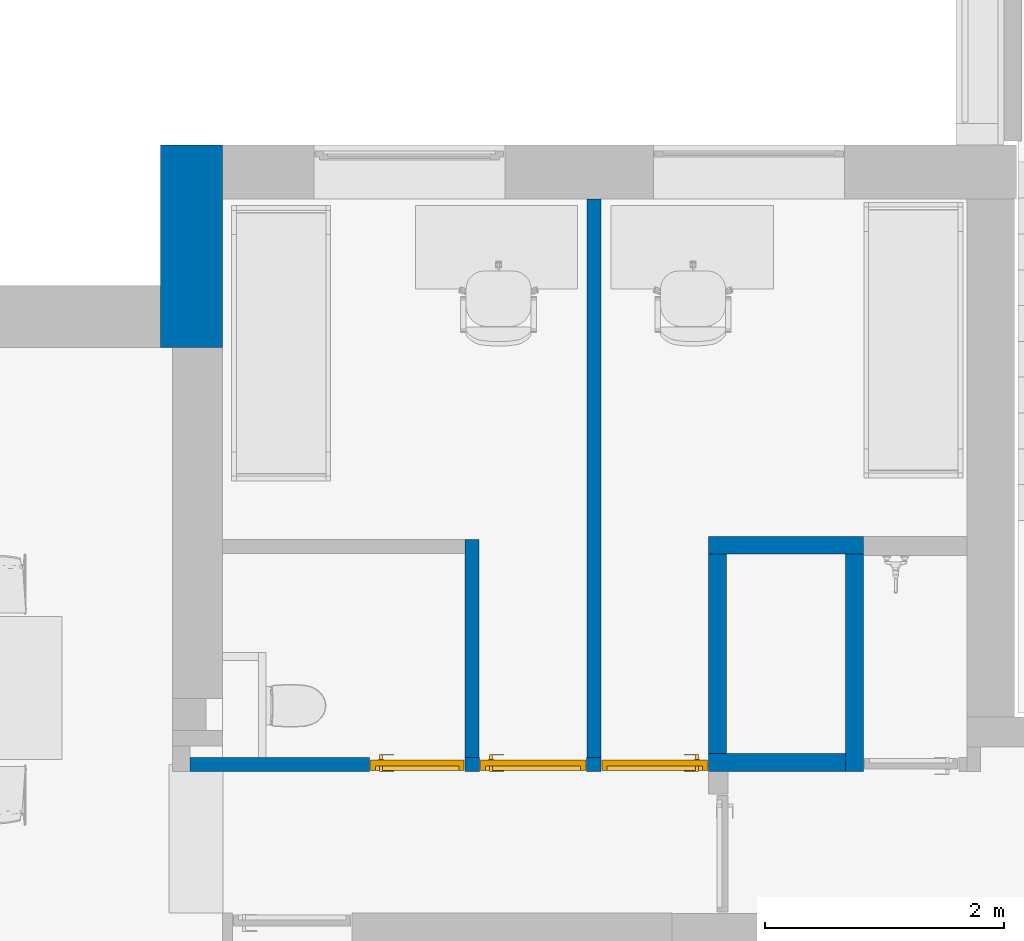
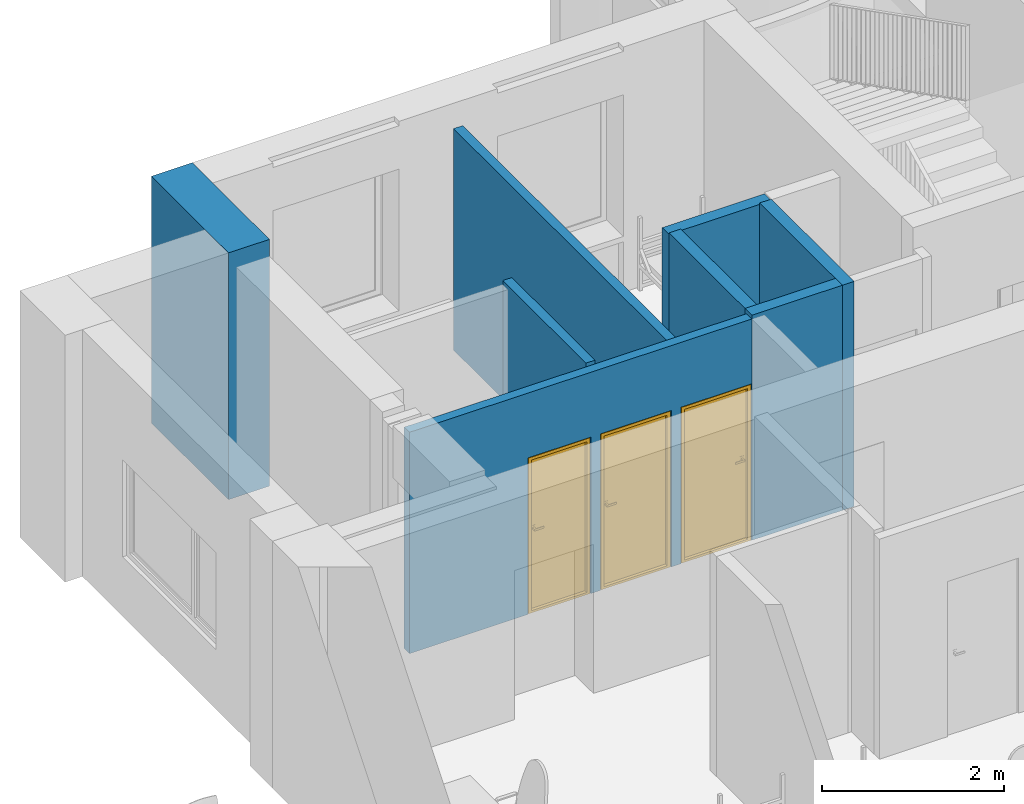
# One storey, part 5 of 48: 8 walls, 3 doors, 6 openings.
"""IFC2X3 building model written with IfcOpenShell, lengths in millimetres."""

from ifc_helpers import new_model, entity, si_unit, converted_unit, derived_unit, direction, frame, frame_2d, origin, place, context, subcontext, project, spatial, rectangle, extrude, faceted_brep, source, transform, mapped, material, material_list, layer, layer_set, layer_usage, type_object, type_shapes, element, fill, save


model = new_model("IFC2X3")

# Units and contexts
model_context = context("Model", 3, precision=0.01, world=origin(), true_north=direction((6.12303176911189e-17, 1.0)))
body_context = subcontext(model_context, "Body", "Model", "MODEL_VIEW")
ifc_project = project(units=[si_unit("LENGTHUNIT", "METRE", prefix="MILLI"), si_unit("AREAUNIT", "SQUARE_METRE"), si_unit("VOLUMEUNIT", "CUBIC_METRE"), converted_unit("PLANEANGLEUNIT", "DEGREE", entity("IfcRatioMeasure", 0.0174532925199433), si_unit("PLANEANGLEUNIT", "RADIAN"), dimensions=[0, 0, 0, 0, 0, 0, 0]), si_unit("MASSUNIT", "GRAM", prefix="KILO"), derived_unit("MASSDENSITYUNIT", [(si_unit("MASSUNIT", "GRAM", prefix="KILO"), 1), (si_unit("LENGTHUNIT", "METRE"), -3)]), si_unit("TIMEUNIT", "SECOND"), si_unit("FREQUENCYUNIT", "HERTZ"), si_unit("THERMODYNAMICTEMPERATUREUNIT", "DEGREE_CELSIUS"), derived_unit("THERMALTRANSMITTANCEUNIT", [(si_unit("MASSUNIT", "GRAM", prefix="KILO"), 1), (si_unit("THERMODYNAMICTEMPERATUREUNIT", "KELVIN"), -1), (si_unit("TIMEUNIT", "SECOND"), -3)]), derived_unit("VOLUMETRICFLOWRATEUNIT", [(si_unit("LENGTHUNIT", "METRE"), 3), (si_unit("TIMEUNIT", "SECOND"), -1)]), si_unit("ELECTRICCURRENTUNIT", "AMPERE"), si_unit("ELECTRICVOLTAGEUNIT", "VOLT"), si_unit("POWERUNIT", "WATT"), si_unit("FORCEUNIT", "NEWTON", prefix="KILO"), si_unit("ILLUMINANCEUNIT", "LUX"), si_unit("LUMINOUSFLUXUNIT", "LUMEN"), si_unit("LUMINOUSINTENSITYUNIT", "CANDELA"), derived_unit("USERDEFINED", [(si_unit("MASSUNIT", "GRAM", prefix="KILO"), -1), (si_unit("LENGTHUNIT", "METRE"), -2), (si_unit("TIMEUNIT", "SECOND"), 3), (si_unit("LUMINOUSFLUXUNIT", "LUMEN"), 1)]), derived_unit("LINEARVELOCITYUNIT", [(si_unit("LENGTHUNIT", "METRE"), 1), (si_unit("TIMEUNIT", "SECOND"), -1)]), si_unit("PRESSUREUNIT", "PASCAL"), derived_unit("USERDEFINED", [(si_unit("LENGTHUNIT", "METRE"), -2), (si_unit("MASSUNIT", "GRAM", prefix="KILO"), 1), (si_unit("TIMEUNIT", "SECOND"), -2)]), derived_unit("LINEARFORCEUNIT", [(si_unit("MASSUNIT", "GRAM", prefix="KILO"), 1), (si_unit("LENGTHUNIT", "METRE"), 1), (si_unit("TIMEUNIT", "SECOND"), -2), (si_unit("LENGTHUNIT", "METRE"), -1)]), derived_unit("PLANARFORCEUNIT", [(si_unit("MASSUNIT", "GRAM", prefix="KILO"), 1), (si_unit("LENGTHUNIT", "METRE"), 1), (si_unit("TIMEUNIT", "SECOND"), -2), (si_unit("LENGTHUNIT", "METRE"), -2)])], contexts=[model_context])

# Site, building, storey
site_placement = place(None, origin())
site = spatial("IfcSite", under=ifc_project, at=site_placement, Name="Default", CompositionType="ELEMENT")
building_placement = place(site_placement, origin())
building = spatial("IfcBuilding", under=site, at=building_placement, Name="SMA ARH", CompositionType="ELEMENT")
storey_placement = place(building_placement, frame((0.0, 0.0, 6600.0)))
storey = spatial("IfcBuildingStorey", under=building, at=storey_placement, Name="3 Korrus", CompositionType="ELEMENT", Elevation=6599.99999999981)

# Walls
ifc_material_1 = material(Name="_ol.olev sein")
ifc_layer_1 = layer(ifc_material_1, 520.0)
ifc_layer_set_1 = layer_set([ifc_layer_1], Name="Basic Wall:Generic - 520mm")
ifc_layer_usage_1 = layer_usage(ifc_layer_set_1, "AXIS2", "NEGATIVE", 260.0)
wall_type_1 = type_object("IfcWallType", Name="Basic Wall:Generic - 520mm", PredefinedType="STANDARD", material=ifc_layer_set_1)
wall_1_placement = place(storey_placement, frame((1905.0, 11250.0, 0.0), z_axis=(0.0, 0.0, 1.0), x_axis=(0.0, 1.0, 0.0)))
element("IfcWallStandardCase", 1, at=wall_1_placement, inside=storey, type_object=wall_type_1, material=ifc_layer_usage_1, Name="Basic Wall:Generic - 520mm", ObjectType="Basic Wall:Generic - 520mm", context=body_context, shape_type="SweptSolid", body=[
    extrude(rectangle(XDim=1696.2030428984, YDim=520.0, at=frame_2d((848.101521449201, -8.5265128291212e-14), x_axis=(-1.0, 0.0))), origin(), (0.0, 0.0, 1.0), 3309.99999999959),
])
ifc_material_2 = material(Name="EST. Müüritis. Väikeplokk. Kergkruusplokk")
ifc_layer_2 = layer(ifc_material_2, 150.0)
ifc_layer_set_2 = layer_set([ifc_layer_2], Name="Basic Wall:SS-02_ 150mm šahtide vahesein")
ifc_layer_usage_2 = layer_usage(ifc_layer_set_2, "AXIS2", "POSITIVE", -75.0)
wall_type_2 = type_object("IfcWallType", Name="Basic Wall:SS-02_ 150mm šahtide vahesein", PredefinedType="STANDARD", material=ifc_layer_set_2)
wall_2_placement = place(storey_placement, frame((6235.32130046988, 9595.0, 0.0)))
element("IfcWallStandardCase", 2, at=wall_2_placement, inside=storey, type_object=wall_type_2, material=ifc_layer_usage_2, Name="Basic Wall:SS-02_ 150mm šahtide vahesein", ObjectType="Basic Wall:SS-02_ 150mm šahtide vahesein", context=body_context, shape_type="SweptSolid", body=[
    extrude(rectangle(XDim=1298.40364972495, YDim=150.000000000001, at=frame_2d((649.201824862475, -4.9737991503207e-14), x_axis=(-1.0, 0.0))), origin(), (0.0, 0.0, 1.0), 2999.9999999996),
])

# Wall, opening
ifc_layer_usage_3 = layer_usage(ifc_layer_set_2, "AXIS2", "POSITIVE", -75.0)
wall_3_placement = place(storey_placement, frame((7458.72495019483, 9520.0, 0.0), z_axis=(0.0, 0.0, 1.0), x_axis=(0.0, -1.0, 0.0)))
wall_3 = element("IfcWallStandardCase", 3, at=wall_3_placement, inside=storey, type_object=wall_type_2, material=ifc_layer_usage_3, Name="Basic Wall:SS-02_ 150mm šahtide vahesein", ObjectType="Basic Wall:SS-02_ 150mm šahtide vahesein", context=body_context, shape_type="SweptSolid", body=[
    extrude(rectangle(XDim=1819.99999999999, YDim=150.000000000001, at=frame_2d((909.999999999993, 1.13686837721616e-13), x_axis=(-1.0, 0.0))), origin(), (0.0, 0.0, 1.0), 3019.99999999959),
])
opening_1_placement = place(wall_3_placement, origin())
element("IfcOpeningElement", 4, at=opening_1_placement, cuts=wall_3, Name="Basic Wall:SS-02_ 150mm šahtide vahesein", ObjectType="Opening", context=body_context, shape_type="SweptSolid", body=[
    extrude(rectangle(XDim=2099.99999999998, YDim=116.0, at=frame_2d((0.0, 5.6843418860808e-13), x_axis=(0.0, 1.0))), frame((1762.0, 75.0, 1050.0), z_axis=(0.0, 1.0, 0.0), x_axis=(1.0, 0.0, 0.0)), (0.0, 0.0, 1.0), 800.0),
])

ifc_layer_usage_4 = layer_usage(ifc_layer_set_2, "AXIS2", "POSITIVE", -75.0)
wall_4_placement = place(storey_placement, frame((7383.72495019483, 7775.0, 0.0), z_axis=(0.0, 0.0, 1.0), x_axis=(-1.0, 0.0, 0.0)))
wall_4 = element("IfcWallStandardCase", 5, at=wall_4_placement, inside=storey, type_object=wall_type_2, material=ifc_layer_usage_4, Name="Basic Wall:SS-02_ 150mm šahtide vahesein", ObjectType="Basic Wall:SS-02_ 150mm šahtide vahesein", context=body_context, shape_type="SweptSolid", body=[
    extrude(rectangle(XDim=1148.40364972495, YDim=150.000000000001, at=frame_2d((574.201824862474, 2.41584530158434e-13), x_axis=(-1.0, 0.0))), origin(), (0.0, 0.0, 1.0), 3019.99999999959),
])
opening_2_placement = place(wall_4_placement, origin())
element("IfcOpeningElement", 6, at=opening_2_placement, cuts=wall_4, Name="Basic Wall:SS-02_ 150mm šahtide vahesein", ObjectType="Opening", context=body_context, shape_type="SweptSolid", body=[
    extrude(rectangle(XDim=2099.99999999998, YDim=900.0, at=frame_2d((5.40012479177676e-13, -5.6843418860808e-13), x_axis=(0.0, 1.0))), frame((1598.40364972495, -1449.0, 1050.0), z_axis=(0.0, 1.0, 0.0), x_axis=(-1.0, 0.0, 0.0)), (0.0, 0.0, 1.0), 3048.0),
])

ifc_layer_usage_5 = layer_usage(ifc_layer_set_2, "AXIS2", "POSITIVE", -75.0)
wall_5_placement = place(storey_placement, frame((6310.32130046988, 7850.0, 0.0), z_axis=(0.0, 0.0, 1.0), x_axis=(0.0, 1.0, 0.0)))
wall_5 = element("IfcWallStandardCase", 7, at=wall_5_placement, inside=storey, type_object=wall_type_2, material=ifc_layer_usage_5, Name="Basic Wall:SS-02_ 150mm šahtide vahesein", ObjectType="Basic Wall:SS-02_ 150mm šahtide vahesein", context=body_context, shape_type="SweptSolid", body=[
    extrude(rectangle(XDim=1669.99999999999, YDim=150.000000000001, at=frame_2d((834.999999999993, 0.0), x_axis=(-1.0, 0.0))), origin(), (0.0, 0.0, 1.0), 3019.99999999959),
])
opening_3_placement = place(wall_5_placement, origin())
element("IfcOpeningElement", 8, at=opening_3_placement, cuts=wall_5, Name="Basic Wall:SS-02_ 150mm šahtide vahesein", ObjectType="Opening", context=body_context, shape_type="SweptSolid", body=[
    extrude(rectangle(XDim=2099.99999999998, YDim=116.0, at=frame_2d((0.0, -5.6843418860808e-13), x_axis=(0.0, 1.0))), frame((-92.0, 75.0, 1050.0), z_axis=(0.0, 1.0, 0.0), x_axis=(-1.0, 0.0, 0.0)), (0.0, 0.0, 1.0), 900.0),
])

# Wall, openings, doors
ifc_material_3 = material(Name="EST. Ehitusplaat. Kipsplaat")
ifc_layer_3 = layer(ifc_material_3, 12.5)
ifc_layer_4 = layer(ifc_material_3, 12.5)
ifc_material_4 = material(Name="EST. Soojustus. Mineraalvill. Default")
ifc_layer_5 = layer(ifc_material_4, 66.0)
ifc_layer_6 = layer(ifc_material_3, 12.5)
ifc_layer_7 = layer(ifc_material_3, 12.5)
ifc_layer_set_3 = layer_set([ifc_layer_3, ifc_layer_4, ifc_layer_5, ifc_layer_6, ifc_layer_7], Name="Basic Wall:SS-05_Kips, 66mm metallkarkass")
ifc_layer_usage_6 = layer_usage(ifc_layer_set_3, "AXIS2", "NEGATIVE", 58.0)
wall_type_3 = type_object("IfcWallType", Name="Basic Wall:SS-05_Kips, 66mm metallkarkass", PredefinedType="STANDARD", material=ifc_layer_set_3)
wall_6_placement = place(storey_placement, frame((6235.32130046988, 7758.0, 0.0), z_axis=(0.0, 0.0, 1.0), x_axis=(-1.0, 0.0, 0.0)))
wall_6 = element("IfcWallStandardCase", 9, at=wall_6_placement, inside=storey, type_object=wall_type_3, material=ifc_layer_usage_6, Name="Basic Wall:SS-05_Kips, 66mm metallkarkass", ObjectType="Basic Wall:SS-05_Kips, 66mm metallkarkass", context=body_context, shape_type="SweptSolid", body=[
    extrude(rectangle(XDim=4344.5372331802, YDim=116.0, at=frame_2d((2172.2686165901, 3.12638803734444e-13), x_axis=(-1.0, 0.0))), origin(), (0.0, 0.0, 1.0), 2970.00000000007),
])
opening_4_placement = place(wall_6_placement, frame((900.0, 58.0, 0.0)))
opening_4 = element("IfcOpeningElement", 10, at=opening_4_placement, cuts=wall_6, Name="SMA_D01, 1-poolne:SU-P-05 - 900x2100 TUBA:1", ObjectType="Opening", context=body_context, shape_type="SweptSolid", body=[
    extrude(rectangle(XDim=2099.99999999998, YDim=900.0, at=frame_2d((1049.99999999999, 450.0), x_axis=(1.0, 0.0))), frame((0.0, 0.0, 0.0), z_axis=(0.0, -1.0, 0.0), x_axis=(0.0, 0.0, 1.0)), (0.0, 0.0, 1.0), 116.0),
])
opening_5_placement = place(wall_6_placement, frame((1920.0, 58.0, 0.0)))
opening_5 = element("IfcOpeningElement", 11, at=opening_5_placement, cuts=wall_6, Name="SMA_D01, 1-poolne:SU-P-05 - 900x2100 TUBA:1", ObjectType="Opening", context=body_context, shape_type="SweptSolid", body=[
    extrude(rectangle(XDim=2099.99999999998, YDim=900.0, at=frame_2d((1049.99999999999, 450.0), x_axis=(1.0, 0.0))), frame((0.0, 0.0, 0.0), z_axis=(0.0, -1.0, 0.0), x_axis=(0.0, 0.0, 1.0)), (0.0, 0.0, 1.0), 116.0),
])
opening_6_placement = place(wall_6_placement, frame((2840.0, 58.0, 0.0)))
opening_6 = element("IfcOpeningElement", 12, at=opening_6_placement, cuts=wall_6, Name="SMA_D01, 1-poolne:SU-P-06 - 800x2100 DUŠŠ:1", ObjectType="Opening", context=body_context, shape_type="SweptSolid", body=[
    extrude(rectangle(XDim=2099.99999999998, YDim=800.0, at=frame_2d((1049.99999999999, 400.0), x_axis=(1.0, 0.0))), frame((0.0, 0.0, 0.0), z_axis=(0.0, -1.0, 0.0), x_axis=(0.0, 0.0, 1.0)), (0.0, 0.0, 1.0), 116.0),
])
ifc_material_5 = material(Name="EST. Metall. Alumiinium. Värvitud. RAL7023 (Concrete grey)")
ifc_material_6 = material(Name="<Unnamed>")
ifc_material_7 = material(Name="EST. Klaas. 3x. Default")
ifc_material_list_1 = material_list([ifc_material_5, ifc_material_6, ifc_material_5, ifc_material_6, ifc_material_6, ifc_material_7, ifc_material_5])
door_style_1 = type_object("IfcDoorStyle", Name="SMA_D01, 1-poolne:SU-P-05 - 900x2100 TUBA", ConstructionType="NOTDEFINED", OperationType="SINGLE_SWING_LEFT", ParameterTakesPrecedence=False, Sizeable=False, material=ifc_material_list_1)
shared_shape_1 = source(origin(), body_context, "Body", "Brep", [
    faceted_brep([(790.0, 6.0, 1112.5), (695.0, 6.0, 1112.5), (695.0, 1.0, 1112.5), (815.0, 1.0, 1112.5), (815.0, 44.0, 1112.5), (790.0, 44.0, 1112.5), (790.0, 6.0, 1087.5), (790.0, 44.0, 1087.5), (815.0, 44.0, 1087.5), (815.0, 1.0, 1087.5), (695.0, 1.0, 1087.5), (695.0, 6.0, 1087.5)], [[[0, 1, 2, 3, 4, 5]], [[6, 7, 8, 9, 10, 11]], [[5, 7, 6, 0]], [[4, 8, 7, 5]], [[3, 9, 8, 4]], [[2, 10, 9, 3]], [[1, 11, 10, 2]], [[0, 6, 11, 1]]]),
    faceted_brep([(777.500000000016, 44.0, 1137.5), (827.500000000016, 44.0, 1137.5), (827.500000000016, 46.0, 1137.5), (777.500000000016, 46.0, 1137.5), (777.500000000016, 44.0, 1017.5), (777.500000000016, 46.0, 1017.5), (827.500000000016, 46.0, 1017.5), (827.500000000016, 44.0, 1017.5)], [[[0, 1, 2, 3]], [[4, 5, 6, 7]], [[3, 5, 4, 0]], [[2, 6, 5, 3]], [[1, 7, 6, 2]], [[0, 4, 7, 1]]]),
    faceted_brep([(790.0, 136.0, 1112.5), (790.0, 98.0, 1112.5), (815.0, 98.0, 1112.5), (815.0, 141.0, 1112.5), (695.0, 141.0, 1112.5), (695.0, 136.0, 1112.5), (790.0, 136.0, 1087.5), (695.0, 136.0, 1087.5), (695.0, 141.0, 1087.5), (815.0, 141.0, 1087.5), (815.0, 98.0, 1087.5), (790.0, 98.0, 1087.5)], [[[0, 1, 2, 3, 4, 5]], [[6, 7, 8, 9, 10, 11]], [[1, 0, 6, 11]], [[2, 1, 11, 10]], [[3, 2, 10, 9]], [[4, 3, 9, 8]], [[5, 4, 8, 7]], [[0, 5, 7, 6]]]),
    faceted_brep([(777.500000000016, 98.0, 1137.5), (777.500000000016, 96.0, 1137.5), (827.500000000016, 96.0, 1137.5), (827.500000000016, 98.0, 1137.5), (777.500000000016, 98.0, 1017.5), (827.500000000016, 98.0, 1017.5), (827.500000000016, 96.0, 1017.5), (777.500000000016, 96.0, 1017.5)], [[[0, 1, 2, 3]], [[4, 5, 6, 7]], [[1, 0, 4, 7]], [[2, 1, 7, 6]], [[3, 2, 6, 5]], [[0, 3, 5, 4]]]),
    faceted_brep([(50.0, 6.0, 30.0), (50.0, 46.0, 30.0), (50.0, 46.0, 20.0), (50.0, 46.0, 0.0), (50.0, 6.0, 0.0), (850.0, 6.0, 30.0), (850.0, 6.0, 0.0), (850.0, 46.0, 0.0), (850.0, 46.0, 20.0), (850.0, 46.0, 30.0), (35.0, 46.0, 0.0), (35.0, 96.0, 0.0), (865.0, 96.0, 0.0), (865.0, 46.0, 0.0), (35.0, 96.0, 20.0), (35.0, 46.0, 20.0), (865.0, 96.0, 20.0), (865.0, 46.0, 20.0)], [[[0, 1, 2, 3, 4]], [[5, 6, 7, 8, 9]], [[4, 6, 5, 0]], [[3, 10, 11, 12, 13, 7, 6, 4]], [[9, 8, 2, 1]], [[0, 5, 9, 1]], [[14, 11, 10, 15]], [[16, 17, 13, 12]], [[15, 2, 8, 17, 16, 14]], [[10, 3, 2, 15]], [[14, 16, 12, 11]], [[17, 8, 7, 13]]]),
    faceted_brep([(10.0, 6.0, 0.0), (10.0, 96.0, 0.0), (35.0, 96.0, 0.0), (35.0, 46.0, 0.0), (50.0, 46.0, 0.0), (50.0, 6.0, 0.0), (50.0, 6.0, 2050.0), (850.0, 6.0, 2050.0), (850.0, 6.0, 0.0), (890.0, 6.0, 0.0), (890.0, 6.0, 2090.0), (10.0, 6.0, 2090.0), (50.0, 46.0, 2050.0), (35.0, 46.0, 2065.0), (865.0, 46.0, 2065.0), (865.0, 46.0, 0.0), (850.0, 46.0, 0.0), (850.0, 46.0, 2050.0), (35.0, 96.0, 2065.0), (10.0, 96.0, 2090.0), (890.0, 96.0, 2090.0), (890.0, 96.0, 0.0), (865.0, 96.0, 0.0), (865.0, 96.0, 2065.0)], [[[0, 1, 2, 3, 4, 5]], [[5, 6, 7, 8, 9, 10, 11, 0]], [[4, 12, 6, 5]], [[3, 13, 14, 15, 16, 17, 12, 4]], [[2, 18, 13, 3]], [[1, 19, 20, 21, 22, 23, 18, 2]], [[0, 11, 19, 1]], [[9, 21, 20, 10]], [[8, 16, 15, 22, 21, 9]], [[7, 17, 16, 8]], [[14, 23, 22, 15]], [[6, 12, 17, 7]], [[13, 18, 23, 14]], [[10, 20, 19, 11]]]),
    faceted_brep([(865.0, 46.0, 2065.0), (35.0, 46.0, 2065.0), (35.0, 46.0, 20.0), (865.0, 46.0, 20.0), (865.0, 96.0, 2065.0), (865.0, 96.0, 20.0), (35.0, 96.0, 20.0), (35.0, 96.0, 2065.0)], [[[0, 1, 2, 3]], [[4, 5, 6, 7]], [[3, 5, 4, 0]], [[2, 6, 5, 3]], [[1, 7, 6, 2]], [[0, 4, 7, 1]]]),
])
type_shapes(door_style_1, [shared_shape_1])
door_1_placement = place(opening_4_placement, frame((0.0, 0.0, 0.0), z_axis=(0.0, 0.0, 1.0), x_axis=(-1.0, 0.0, 0.0)))
door_1 = element("IfcDoor", 13, at=door_1_placement, inside=storey, type_object=door_style_1, material=ifc_material_5, Name="SMA_D01, 1-poolne:SU-P-05 - 900x2100 TUBA", ObjectType="SMA_D01, 1-poolne:SU-P-05 - 900x2100 TUBA", OverallHeight=2099.99999999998, OverallWidth=900.0, context=body_context, shape_type="MappedRepresentation", body=[
    mapped(shared_shape_1, transform((0.0, 0.0, 0.0), scale=1.0)),
])
fill(opening_4, door_1)
ifc_material_list_2 = material_list([ifc_material_6, ifc_material_7, ifc_material_6, ifc_material_5, ifc_material_5, ifc_material_5, ifc_material_6])
door_style_2 = type_object("IfcDoorStyle", Name="SMA_D01, 1-poolne:SU-P-05 - 900x2100 TUBA", ConstructionType="NOTDEFINED", OperationType="SINGLE_SWING_RIGHT", ParameterTakesPrecedence=False, Sizeable=False, material=ifc_material_list_2)
shared_shape_2 = source(origin(), body_context, "Body", "Brep", [
    faceted_brep([(110.0, 6.0, 1112.5), (110.0, 44.0, 1112.5), (85.0, 44.0, 1112.5), (85.0, 1.0, 1112.5), (205.0, 1.0, 1112.5), (205.0, 6.0, 1112.5), (110.0, 6.0, 1087.5), (205.0, 6.0, 1087.5), (205.0, 1.0, 1087.5), (85.0, 1.0, 1087.5), (85.0, 44.0, 1087.5), (110.0, 44.0, 1087.5)], [[[0, 1, 2, 3, 4, 5]], [[6, 7, 8, 9, 10, 11]], [[1, 0, 6, 11]], [[2, 1, 11, 10]], [[3, 2, 10, 9]], [[4, 3, 9, 8]], [[5, 4, 8, 7]], [[0, 5, 7, 6]]]),
    faceted_brep([(122.5, 44.0, 1137.5), (122.5, 46.0, 1137.5), (72.5000000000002, 46.0, 1137.5), (72.5000000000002, 44.0, 1137.5), (122.5, 44.0, 1017.5), (72.5000000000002, 44.0, 1017.5), (72.5000000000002, 46.0, 1017.5), (122.5, 46.0, 1017.5)], [[[0, 1, 2, 3]], [[4, 5, 6, 7]], [[1, 0, 4, 7]], [[2, 1, 7, 6]], [[3, 2, 6, 5]], [[0, 3, 5, 4]]]),
    faceted_brep([(110.0, 136.0, 1112.5), (205.0, 136.0, 1112.5), (205.0, 141.0, 1112.5), (85.0, 141.0, 1112.5), (85.0, 98.0, 1112.5), (110.0, 98.0, 1112.5), (110.0, 136.0, 1087.5), (110.0, 98.0, 1087.5), (85.0, 98.0, 1087.5), (85.0, 141.0, 1087.5), (205.0, 141.0, 1087.5), (205.0, 136.0, 1087.5)], [[[0, 1, 2, 3, 4, 5]], [[6, 7, 8, 9, 10, 11]], [[5, 7, 6, 0]], [[4, 8, 7, 5]], [[3, 9, 8, 4]], [[2, 10, 9, 3]], [[1, 11, 10, 2]], [[0, 6, 11, 1]]]),
    faceted_brep([(122.5, 98.0, 1137.5), (72.5000000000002, 98.0, 1137.5), (72.5000000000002, 96.0, 1137.5), (122.5, 96.0, 1137.5), (122.5, 98.0, 1017.5), (122.5, 96.0, 1017.5), (72.5000000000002, 96.0, 1017.5), (72.5000000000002, 98.0, 1017.5)], [[[0, 1, 2, 3]], [[4, 5, 6, 7]], [[3, 5, 4, 0]], [[2, 6, 5, 3]], [[1, 7, 6, 2]], [[0, 4, 7, 1]]]),
    faceted_brep([(850.0, 6.0, 30.0), (850.0, 6.0, 0.0), (850.0, 46.0, 0.0), (850.0, 46.0, 20.0), (850.0, 46.0, 30.0), (50.0, 6.0, 30.0), (50.0, 46.0, 30.0), (50.0, 46.0, 20.0), (50.0, 46.0, 0.0), (50.0, 6.0, 0.0), (35.0, 46.0, 0.0), (35.0, 96.0, 0.0), (865.0, 96.0, 0.0), (865.0, 46.0, 0.0), (865.0, 96.0, 20.0), (865.0, 46.0, 20.0), (35.0, 96.0, 20.0), (35.0, 46.0, 20.0)], [[[0, 1, 2, 3, 4]], [[5, 6, 7, 8, 9]], [[1, 0, 5, 9]], [[2, 1, 9, 8, 10, 11, 12, 13]], [[6, 4, 3, 7]], [[0, 4, 6, 5]], [[14, 15, 13, 12]], [[16, 11, 10, 17]], [[15, 14, 16, 17, 7, 3]], [[13, 15, 3, 2]], [[14, 12, 11, 16]], [[17, 10, 8, 7]]]),
    faceted_brep([(890.0, 6.0, 0.0), (850.0, 6.0, 0.0), (850.0, 46.0, 0.0), (865.0, 46.0, 0.0), (865.0, 96.0, 0.0), (890.0, 96.0, 0.0), (890.0, 6.0, 2090.0), (10.0, 6.0, 2090.0), (10.0, 6.0, 0.0), (50.0, 6.0, 0.0), (50.0, 6.0, 2050.0), (850.0, 6.0, 2050.0), (850.0, 46.0, 2050.0), (50.0, 46.0, 2050.0), (50.0, 46.0, 0.0), (35.0, 46.0, 0.0), (35.0, 46.0, 2065.0), (865.0, 46.0, 2065.0), (865.0, 96.0, 2065.0), (35.0, 96.0, 2065.0), (35.0, 96.0, 0.0), (10.0, 96.0, 0.0), (10.0, 96.0, 2090.0), (890.0, 96.0, 2090.0)], [[[0, 1, 2, 3, 4, 5]], [[1, 0, 6, 7, 8, 9, 10, 11]], [[2, 1, 11, 12]], [[3, 2, 12, 13, 14, 15, 16, 17]], [[4, 3, 17, 18]], [[5, 4, 18, 19, 20, 21, 22, 23]], [[0, 5, 23, 6]], [[8, 7, 22, 21]], [[9, 8, 21, 20, 15, 14]], [[10, 9, 14, 13]], [[16, 15, 20, 19]], [[11, 10, 13, 12]], [[17, 16, 19, 18]], [[7, 6, 23, 22]]]),
    faceted_brep([(35.0, 46.0, 2065.0), (35.0, 46.0, 20.0), (865.0, 46.0, 20.0), (865.0, 46.0, 2065.0), (35.0, 96.0, 2065.0), (865.0, 96.0, 2065.0), (865.0, 96.0, 20.0), (35.0, 96.0, 20.0)], [[[0, 1, 2, 3]], [[4, 5, 6, 7]], [[1, 0, 4, 7]], [[2, 1, 7, 6]], [[3, 2, 6, 5]], [[0, 3, 5, 4]]]),
])
type_shapes(door_style_2, [shared_shape_2])
door_2_placement = place(opening_5_placement, frame((0.0, 0.0, 0.0), z_axis=(0.0, 0.0, 1.0), x_axis=(-1.0, 0.0, 0.0)))
door_2 = element("IfcDoor", 14, at=door_2_placement, inside=storey, type_object=door_style_2, material=ifc_material_5, Name="SMA_D01, 1-poolne:SU-P-05 - 900x2100 TUBA", ObjectType="SMA_D01, 1-poolne:SU-P-05 - 900x2100 TUBA", OverallHeight=2099.99999999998, OverallWidth=900.0, context=body_context, shape_type="MappedRepresentation", body=[
    mapped(shared_shape_2, transform((0.0, 0.0, 0.0), scale=1.0)),
])
fill(opening_5, door_2)
ifc_material_list_3 = material_list([ifc_material_5, ifc_material_7, ifc_material_6, ifc_material_6, ifc_material_5, ifc_material_6, ifc_material_5])
door_style_3 = type_object("IfcDoorStyle", Name="SMA_D01, 1-poolne:SU-P-06 - 800x2100 DUŠŠ", ConstructionType="NOTDEFINED", OperationType="NOTDEFINED", ParameterTakesPrecedence=False, Sizeable=False, material=ifc_material_list_3)
shared_shape_3 = source(origin(), body_context, "Body", "Brep", [
    faceted_brep([(110.0, 6.0, 1112.5), (110.0, 44.0, 1112.5), (85.0, 44.0, 1112.5), (85.0, 1.0, 1112.5), (205.0, 1.0, 1112.5), (205.0, 6.0, 1112.5), (110.0, 6.0, 1087.5), (205.0, 6.0, 1087.5), (205.0, 1.0, 1087.5), (85.0, 1.0, 1087.5), (85.0, 44.0, 1087.5), (110.0, 44.0, 1087.5)], [[[0, 1, 2, 3, 4, 5]], [[6, 7, 8, 9, 10, 11]], [[1, 0, 6, 11]], [[2, 1, 11, 10]], [[3, 2, 10, 9]], [[4, 3, 9, 8]], [[5, 4, 8, 7]], [[0, 5, 7, 6]]]),
    faceted_brep([(122.5, 44.0, 1137.5), (122.5, 46.0, 1137.5), (72.4999999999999, 46.0, 1137.5), (72.4999999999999, 44.0, 1137.5), (122.5, 44.0, 1017.5), (72.4999999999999, 44.0, 1017.5), (72.4999999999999, 46.0, 1017.5), (122.5, 46.0, 1017.5)], [[[0, 1, 2, 3]], [[4, 5, 6, 7]], [[1, 0, 4, 7]], [[2, 1, 7, 6]], [[3, 2, 6, 5]], [[0, 3, 5, 4]]]),
    faceted_brep([(110.0, 136.0, 1112.5), (205.0, 136.0, 1112.5), (205.0, 141.0, 1112.5), (85.0, 141.0, 1112.5), (85.0, 98.0, 1112.5), (110.0, 98.0, 1112.5), (110.0, 136.0, 1087.5), (110.0, 98.0, 1087.5), (85.0, 98.0, 1087.5), (85.0, 141.0, 1087.5), (205.0, 141.0, 1087.5), (205.0, 136.0, 1087.5)], [[[0, 1, 2, 3, 4, 5]], [[6, 7, 8, 9, 10, 11]], [[5, 7, 6, 0]], [[4, 8, 7, 5]], [[3, 9, 8, 4]], [[2, 10, 9, 3]], [[1, 11, 10, 2]], [[0, 6, 11, 1]]]),
    faceted_brep([(122.5, 98.0, 1137.5), (72.4999999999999, 98.0, 1137.5), (72.4999999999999, 96.0, 1137.5), (122.5, 96.0, 1137.5), (122.5, 98.0, 1017.5), (122.5, 96.0, 1017.5), (72.4999999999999, 96.0, 1017.5), (72.4999999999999, 98.0, 1017.5)], [[[0, 1, 2, 3]], [[4, 5, 6, 7]], [[3, 5, 4, 0]], [[2, 6, 5, 3]], [[1, 7, 6, 2]], [[0, 4, 7, 1]]]),
    faceted_brep([(750.0, 6.0, 30.0), (750.0, 6.0, 0.0), (750.0, 46.0, 0.0), (750.0, 46.0, 20.0), (750.0, 46.0, 30.0), (50.0, 6.0, 30.0), (50.0, 46.0, 30.0), (50.0, 46.0, 20.0), (50.0, 46.0, 0.0), (50.0, 6.0, 0.0), (35.0, 46.0, 0.0), (35.0, 96.0, 0.0), (765.0, 96.0, 0.0), (765.0, 46.0, 0.0), (765.0, 96.0, 20.0), (765.0, 46.0, 20.0), (35.0, 96.0, 20.0), (35.0, 46.0, 20.0)], [[[0, 1, 2, 3, 4]], [[5, 6, 7, 8, 9]], [[1, 0, 5, 9]], [[2, 1, 9, 8, 10, 11, 12, 13]], [[6, 4, 3, 7]], [[0, 4, 6, 5]], [[14, 15, 13, 12]], [[16, 11, 10, 17]], [[15, 14, 16, 17, 7, 3]], [[13, 15, 3, 2]], [[14, 12, 11, 16]], [[17, 10, 8, 7]]]),
    faceted_brep([(790.0, 6.0, 0.0), (750.0, 6.0, 0.0), (750.0, 46.0, 0.0), (765.0, 46.0, 0.0), (765.0, 96.0, 0.0), (790.0, 96.0, 0.0), (790.0, 6.0, 2090.0), (10.0, 6.0, 2090.0), (10.0, 6.0, 0.0), (50.0, 6.0, 0.0), (50.0, 6.0, 2050.0), (750.0, 6.0, 2050.0), (750.0, 46.0, 2050.0), (50.0, 46.0, 2050.0), (50.0, 46.0, 0.0), (35.0, 46.0, 0.0), (35.0, 46.0, 2065.0), (765.0, 46.0, 2065.0), (765.0, 96.0, 2065.0), (35.0, 96.0, 2065.0), (35.0, 96.0, 0.0), (10.0, 96.0, 0.0), (10.0, 96.0, 2090.0), (790.0, 96.0, 2090.0)], [[[0, 1, 2, 3, 4, 5]], [[1, 0, 6, 7, 8, 9, 10, 11]], [[2, 1, 11, 12]], [[3, 2, 12, 13, 14, 15, 16, 17]], [[4, 3, 17, 18]], [[5, 4, 18, 19, 20, 21, 22, 23]], [[0, 5, 23, 6]], [[8, 7, 22, 21]], [[9, 8, 21, 20, 15, 14]], [[10, 9, 14, 13]], [[16, 15, 20, 19]], [[11, 10, 13, 12]], [[17, 16, 19, 18]], [[7, 6, 23, 22]]]),
    faceted_brep([(35.0, 46.0, 2065.0), (35.0, 46.0, 20.0), (765.0, 46.0, 20.0), (765.0, 46.0, 2065.0), (35.0, 96.0, 2065.0), (765.0, 96.0, 2065.0), (765.0, 96.0, 20.0), (35.0, 96.0, 20.0)], [[[0, 1, 2, 3]], [[4, 5, 6, 7]], [[1, 0, 4, 7]], [[2, 1, 7, 6]], [[3, 2, 6, 5]], [[0, 3, 5, 4]]]),
])
type_shapes(door_style_3, [shared_shape_3])
door_3_placement = place(opening_6_placement, frame((0.0, 0.0, 0.0), z_axis=(0.0, 0.0, 1.0), x_axis=(-1.0, 0.0, 0.0)))
door_3 = element("IfcDoor", 15, at=door_3_placement, inside=storey, type_object=door_style_3, material=ifc_material_5, Name="SMA_D01, 1-poolne:SU-P-06 - 800x2100 DUŠŠ", ObjectType="SMA_D01, 1-poolne:SU-P-06 - 800x2100 DUŠŠ", OverallHeight=2099.99999999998, OverallWidth=800.0, context=body_context, shape_type="MappedRepresentation", body=[
    mapped(shared_shape_3, transform((0.0, 0.0, 0.0), scale=1.0)),
])
fill(opening_6, door_3)

# Walls
ifc_layer_usage_7 = layer_usage(ifc_layer_set_3, "AXIS2", "NEGATIVE", 58.0)
wall_7_placement = place(storey_placement, frame((4255.32130046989, 9643.50000000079, 0.0), z_axis=(0.0, 0.0, 1.0), x_axis=(0.0, -1.0, 0.0)))
element("IfcWallStandardCase", 16, at=wall_7_placement, inside=storey, type_object=wall_type_3, material=ifc_layer_usage_7, Name="Basic Wall:SS-05_Kips, 66mm metallkarkass", ObjectType="Basic Wall:SS-05_Kips, 66mm metallkarkass", context=body_context, shape_type="SweptSolid", body=[
    extrude(rectangle(XDim=1827.49999999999, YDim=116.0, at=frame_2d((913.749999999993, 6.75015598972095e-14), x_axis=(-1.0, 0.0))), origin(), (0.0, 0.0, 1.0), 3019.99999999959),
])
ifc_layer_usage_8 = layer_usage(ifc_layer_set_3, "AXIS2", "NEGATIVE", 58.0)
wall_8_placement = place(storey_placement, frame((5277.32130046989, 12496.2030428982, 0.0), z_axis=(0.0, 0.0, 1.0), x_axis=(0.0, -1.0, 0.0)))
element("IfcWallStandardCase", 17, at=wall_8_placement, inside=storey, type_object=wall_type_3, material=ifc_layer_usage_8, Name="Basic Wall:SS-05_Kips, 66mm metallkarkass", ObjectType="Basic Wall:SS-05_Kips, 66mm metallkarkass", context=body_context, shape_type="SweptSolid", body=[
    extrude(rectangle(XDim=4680.20304289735, YDim=116.0, at=frame_2d((2340.10152144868, -3.90798504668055e-14), x_axis=(-1.0, 0.0))), origin(), (0.0, 0.0, 1.0), 2970.00000000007),
])

save(model, "model.ifc")
